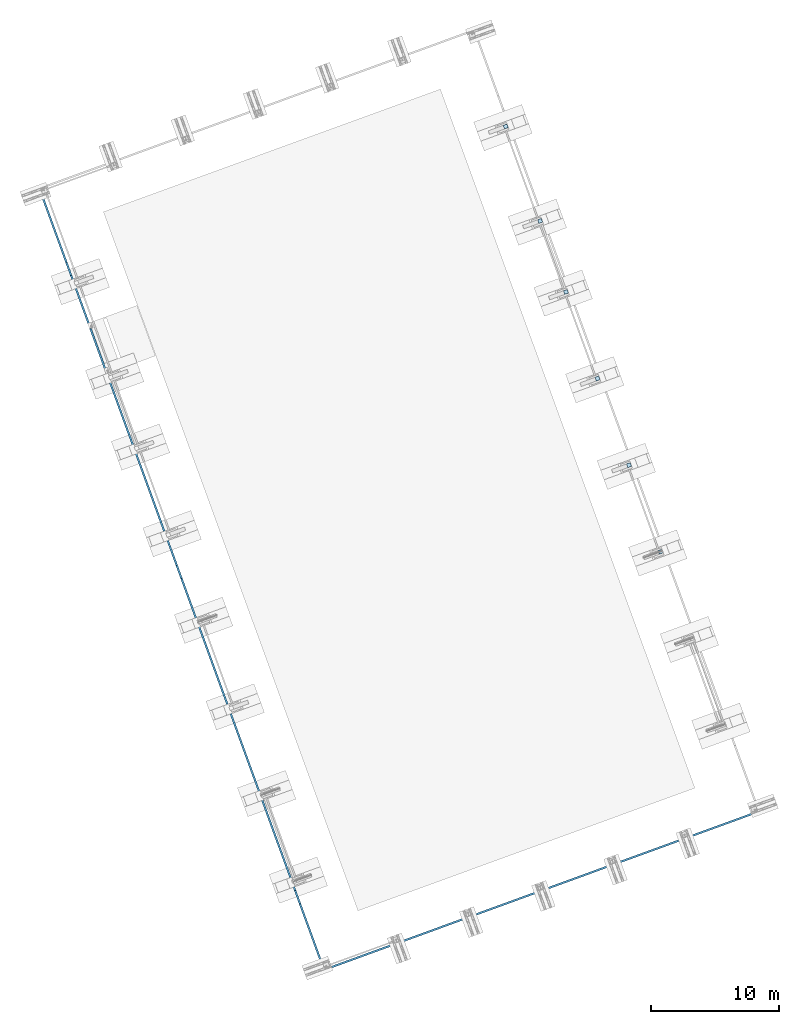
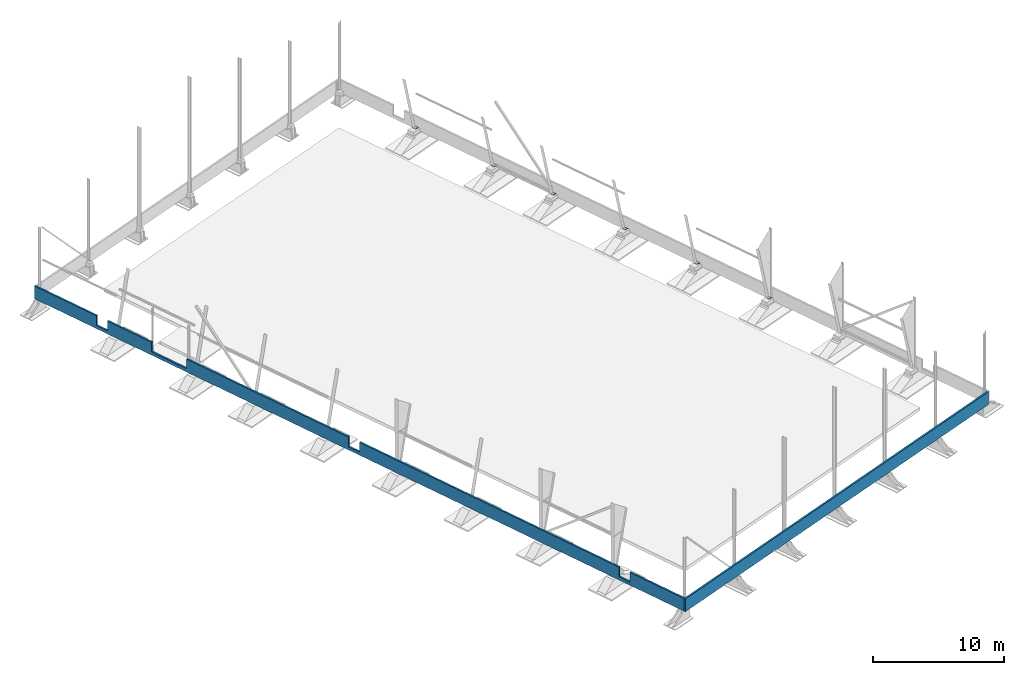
# One storey, part 19 of 20: 6 plates, 2 walls, 4 openings, 8 elements without a shape of their own.
"""IFC4 building model written with IfcOpenShell, lengths in millimetres."""

from ifc_helpers import new_model, si_unit, direction, frame, origin_with_axes, place, context, subcontext, project, spatial, line, indexed_curve, outline, extrude, polygons, material, element, aggregate, save


model = new_model("IFC4")

# Units and contexts
model_context = context("Model", 3, precision=0.2, world=frame((203566.813, 116264.779, 0.0), z_axis=(0.0, 0.0, 1.0), x_axis=(1.0, 0.0, 0.0)), true_north=direction((-0.9396138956, -0.3422363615)))
body_context = subcontext(model_context, "Body", "Model", "MODEL_VIEW")
reference_context = subcontext(model_context, "Reference", "Model", "MODEL_VIEW")
ifc_project = project(units=[si_unit("LENGTHUNIT", "METRE", prefix="MILLI"), si_unit("AREAUNIT", "SQUARE_METRE"), si_unit("VOLUMEUNIT", "CUBIC_METRE"), si_unit("MASSUNIT", "GRAM", prefix="KILO"), si_unit("TIMEUNIT", "SECOND"), si_unit("PLANEANGLEUNIT", "RADIAN"), si_unit("SOLIDANGLEUNIT", "STERADIAN"), si_unit("THERMODYNAMICTEMPERATUREUNIT", "DEGREE_CELSIUS"), si_unit("LUMINOUSINTENSITYUNIT", "LUMEN")], contexts=[model_context])

# Site, building, storey
site_placement = place(None, origin_with_axes())
site = spatial("IfcSite", under=ifc_project, at=site_placement, Name="Nobelprojektet", CompositionType="ELEMENT")
building_placement = place(site_placement, origin_with_axes())
building = spatial("IfcBuilding", under=site, at=building_placement, Name="Hall B", CompositionType="ELEMENT")
storey_placement = place(building_placement, frame((0.0, 0.0, 1000.0), z_axis=(0.0, 0.0, 1.0), x_axis=(1.0, 0.0, 0.0)))
storey = spatial("IfcBuildingStorey", under=building, at=storey_placement, Name="Plan_1", CompositionType="ELEMENT", Elevation=1000.0)

# Assembly, plate
assembly_1_placement = place(storey_placement, frame((176898.02521, 145519.50485, 132189.9974), z_axis=(0.0, 0.0, 1.0), x_axis=(-0.9396136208, -0.3422371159, 0.0)))
assembly_1 = element("IfcElementAssembly", 1, at=assembly_1_placement, inside=storey, Name="BEF. STOMME", PredefinedType="NOTDEFINED")
ifc_material_1 = material(Name="S355J2", Category="STEEL")
plate_1_placement = place(assembly_1_placement, frame((304.32129, 0.0, 0.0), z_axis=(-1.0, 0.0, 0.0), x_axis=(0.0, 0.0, 1.0)))
plate_1 = element("IfcPlate", 2, at=plate_1_placement, material=ifc_material_1, Name="BEF. STOMME", PredefinedType="NOTDEFINED", context=body_context, shape_type="Tessellation", body=[
    polygons([(-10.0, -150.0, 304.32129), (-10.0, 150.0, 304.32129), (-10.0, 150.0, 0.0), (-10.0, -150.0, 0.0), (10.0, 150.0, 304.32129), (10.0, 150.0, 0.0), (10.0, -150.0, 304.32129), (10.0, -150.0, 0.0)], [[[1, 2, 3, 4]], [[2, 5, 6, 3]], [[5, 7, 8, 6]], [[7, 1, 4, 8]], [[6, 8, 4, 3]], [[7, 5, 2, 1]]], closed=True),
])
aggregate(assembly_1, [plate_1])

assembly_2_placement = place(storey_placement, frame((174433.91798, 152284.72292, 132189.9974), z_axis=(0.0, 0.0, 1.0), x_axis=(-0.9396136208, -0.3422371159, 0.0)))
assembly_2 = element("IfcElementAssembly", 3, at=assembly_2_placement, inside=storey, Name="BEF. STOMME", PredefinedType="NOTDEFINED")
plate_2_placement = place(assembly_2_placement, frame((304.32129, 0.0, 0.0), z_axis=(-1.0, 0.0, 0.0), x_axis=(0.0, 0.0, 1.0)))
plate_2 = element("IfcPlate", 4, at=plate_2_placement, material=ifc_material_1, Name="BEF. STOMME", PredefinedType="NOTDEFINED", context=body_context, shape_type="Tessellation", body=[
    polygons([(-10.0, -150.0, 304.32129), (-10.0, 150.0, 304.32129), (-10.0, 150.0, 0.0), (-10.0, -150.0, 0.0), (10.0, 150.0, 304.32129), (10.0, 150.0, 0.0), (10.0, -150.0, 304.32129), (10.0, -150.0, 0.0)], [[[1, 2, 3, 4]], [[2, 5, 6, 3]], [[5, 7, 8, 6]], [[7, 1, 4, 8]], [[6, 8, 4, 3]], [[7, 5, 2, 1]]], closed=True),
])
aggregate(assembly_2, [plate_2])

assembly_3_placement = place(storey_placement, frame((171969.81074, 159049.94099, 132189.9974), z_axis=(0.0, 0.0, 1.0), x_axis=(-0.9396136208, -0.3422371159, 0.0)))
assembly_3 = element("IfcElementAssembly", 5, at=assembly_3_placement, inside=storey, Name="BEF. STOMME", PredefinedType="NOTDEFINED")
plate_3_placement = place(assembly_3_placement, frame((304.32129, 0.0, 0.0), z_axis=(-1.0, 0.0, 0.0), x_axis=(0.0, 0.0, 1.0)))
plate_3 = element("IfcPlate", 6, at=plate_3_placement, material=ifc_material_1, Name="BEF. STOMME", PredefinedType="NOTDEFINED", context=body_context, shape_type="Tessellation", body=[
    polygons([(-10.0, -150.0, 304.32129), (-10.0, 150.0, 304.32129), (-10.0, 150.0, 0.0), (-10.0, -150.0, 0.0), (10.0, 150.0, 304.32129), (10.0, 150.0, 0.0), (10.0, -150.0, 304.32129), (10.0, -150.0, 0.0)], [[[1, 2, 3, 4]], [[2, 5, 6, 3]], [[5, 7, 8, 6]], [[7, 1, 4, 8]], [[6, 8, 4, 3]], [[7, 5, 2, 1]]], closed=True),
])
aggregate(assembly_3, [plate_3])

assembly_4_placement = place(storey_placement, frame((169505.70351, 165815.15906, 132189.9974), z_axis=(0.0, 0.0, 1.0), x_axis=(-0.9396136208, -0.3422371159, 0.0)))
assembly_4 = element("IfcElementAssembly", 7, at=assembly_4_placement, inside=storey, Name="BEF. STOMME", PredefinedType="NOTDEFINED")
plate_4_placement = place(assembly_4_placement, frame((304.32129, 0.0, 0.0), z_axis=(-1.0, 0.0, 0.0), x_axis=(0.0, 0.0, 1.0)))
plate_4 = element("IfcPlate", 8, at=plate_4_placement, material=ifc_material_1, Name="BEF. STOMME", PredefinedType="NOTDEFINED", context=body_context, shape_type="Tessellation", body=[
    polygons([(-10.0, -150.0, 304.32129), (-10.0, 150.0, 304.32129), (-10.0, 150.0, 0.0), (-10.0, -150.0, 0.0), (10.0, 150.0, 304.32129), (10.0, 150.0, 0.0), (10.0, -150.0, 304.32129), (10.0, -150.0, 0.0)], [[[1, 2, 3, 4]], [[2, 5, 6, 3]], [[5, 7, 8, 6]], [[7, 1, 4, 8]], [[6, 8, 4, 3]], [[7, 5, 2, 1]]], closed=True),
])
aggregate(assembly_4, [plate_4])

assembly_5_placement = place(storey_placement, frame((167486.50453, 171358.87942, 132189.9974), z_axis=(0.0, 0.0, 1.0), x_axis=(-0.9396136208, -0.3422371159, 0.0)))
assembly_5 = element("IfcElementAssembly", 9, at=assembly_5_placement, inside=storey, Name="BEF. STOMME", PredefinedType="NOTDEFINED")
plate_5_placement = place(assembly_5_placement, frame((304.32129, 0.0, 0.0), z_axis=(-1.0, 0.0, 0.0), x_axis=(0.0, 0.0, 1.0)))
plate_5 = element("IfcPlate", 10, at=plate_5_placement, material=ifc_material_1, Name="BEF. STOMME", PredefinedType="NOTDEFINED", context=body_context, shape_type="Tessellation", body=[
    polygons([(-10.0, -150.0, 304.32129), (-10.0, 150.0, 304.32129), (-10.0, 150.0, 0.0), (-10.0, -150.0, 0.0), (10.0, 150.0, 304.32129), (10.0, 150.0, 0.0), (10.0, -150.0, 304.32129), (10.0, -150.0, 0.0)], [[[1, 2, 3, 4]], [[2, 5, 6, 3]], [[5, 7, 8, 6]], [[7, 1, 4, 8]], [[6, 8, 4, 3]], [[7, 5, 2, 1]]], closed=True),
])
aggregate(assembly_5, [plate_5])

assembly_6_placement = place(storey_placement, frame((164799.94316, 178734.84634, 132189.9974), z_axis=(0.0, 0.0, 1.0), x_axis=(-0.9396136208, -0.3422371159, 0.0)))
assembly_6 = element("IfcElementAssembly", 11, at=assembly_6_placement, inside=storey, Name="BEF. STOMME", PredefinedType="NOTDEFINED")
plate_6_placement = place(assembly_6_placement, frame((304.32129, 0.0, 0.0), z_axis=(-1.0, 0.0, 0.0), x_axis=(0.0, 0.0, 1.0)))
plate_6 = element("IfcPlate", 12, at=plate_6_placement, material=ifc_material_1, Name="BEF. STOMME", PredefinedType="NOTDEFINED", context=body_context, shape_type="Tessellation", body=[
    polygons([(-10.0, -150.0, 304.32129), (-10.0, 150.0, 304.32129), (-10.0, 150.0, 0.0), (-10.0, -150.0, 0.0), (10.0, 150.0, 304.32129), (10.0, 150.0, 0.0), (10.0, -150.0, 304.32129), (10.0, -150.0, 0.0)], [[[1, 2, 3, 4]], [[2, 5, 6, 3]], [[5, 7, 8, 6]], [[7, 1, 4, 8]], [[6, 8, 4, 3]], [[7, 5, 2, 1]]], closed=True),
])
aggregate(assembly_6, [plate_6])

# Assembly, wall, voiding features
assembly_7_placement = place(storey_placement, frame((128214.1794, 173907.24614, 132475.0), z_axis=(-0.9396136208, -0.3422371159, 0.0), x_axis=(0.3422371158, -0.9396136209, 1.3e-09)))
assembly_7 = element("IfcElementAssembly", 13, at=assembly_7_placement, inside=storey, Name="YV99", PredefinedType="NOTDEFINED")
ifc_material_2 = material(Name="Concrete_Undefined", Category="CONCRETE")
wall_1_placement = place(assembly_7_placement, origin_with_axes())
wall_1 = element("IfcWall", 14, at=wall_1_placement, material=ifc_material_2, Name="BEFINTLIG", PredefinedType="NOTDEFINED", context=body_context, shape_type="Tessellation", body=[
    polygons([(58450.0, 600.0, 75.0), (58450.0, -305.0, 75.0), (58450.0, -305.0, -75.0), (58450.0, 600.0, -75.0), (59550.0, -305.0, 75.0), (59550.0, -305.0, -75.0), (59550.0, 600.0, 75.0), (59550.0, 600.0, -75.0), (32500.0, 600.0, 75.0), (32500.0, 600.0, -75.0), (32500.0, -305.0, -75.0), (32500.0, -305.0, 75.0), (31400.0, -305.0, -75.0), (31400.0, -305.0, 75.0), (31400.0, 600.0, 75.0), (31400.0, 600.0, -75.0), (15230.025, 600.0, -75.0), (15230.025, 600.0, 75.0), (15230.025, -295.0, -75.0), (15230.025, -295.0, 75.0), (11730.025, -295.0, -75.0), (11730.025, -295.0, 75.0), (11730.025, 600.0, 75.0), (11730.025, 600.0, -75.0), (7300.025, 600.0, -75.0), (7300.025, 600.0, 75.0), (7300.025, -305.0, -75.0), (7300.025, -305.0, 75.0), (6200.98656, -305.0, -75.0), (6200.98656, -305.0, 75.0), (6200.98656, 600.0, 75.0), (6200.98656, 600.0, -75.0), (0.0, 600.0, -75.0), (0.0, 600.0, 75.0), (0.0, -600.0, 75.0), (0.0, -600.0, -75.0), (65100.0, -600.0, -75.0), (65100.0, -600.0, 75.0), (65100.0, 600.0, 75.0), (65100.0, 600.0, -75.0)], [[[1, 2, 3, 4]], [[5, 6, 3, 2]], [[7, 8, 6, 5]], [[9, 10, 11, 12]], [[12, 11, 13, 14]], [[15, 14, 13, 16]], [[17, 18, 15, 16]], [[18, 17, 19, 20]], [[20, 19, 21, 22]], [[23, 22, 21, 24]], [[23, 24, 25, 26]], [[26, 25, 27, 28]], [[28, 27, 29, 30]], [[31, 30, 29, 32]], [[33, 34, 31, 32]], [[35, 34, 33, 36]], [[35, 36, 37, 38]], [[39, 38, 37, 40]], [[2, 1, 9, 12, 14, 15, 18, 20, 22, 23, 26, 28, 30, 31, 34, 35, 38, 39, 7, 5]], [[10, 9, 1, 4]], [[40, 37, 36, 33, 32, 29, 27, 25, 24, 21, 19, 17, 16, 13, 11, 10, 4, 3, 6, 8]], [[39, 40, 8, 7]]], closed=True),
])
voiding_feature_1_placement = place(wall_1_placement, frame((13480.025, 174.97731, -225.0), z_axis=(-1.0, 0.0, 0.0), x_axis=(0.0, 0.0, 1.0)))
element("IfcVoidingFeature", 15, at=voiding_feature_1_placement, cuts=wall_1, Name="Öxx", PredefinedType="HOLE", context=reference_context, identifier="Reference", shape_type="SolidModel", body=[
    extrude(outline(indexed_curve([(-1750.0, -469.97731), (1750.0, -469.97731), (1750.0, 469.97731), (-1750.0, 469.97731)], segments=[line(1, 2, 3, 4, 1)])), frame((0.0, 0.0, 0.0), z_axis=(-1.0, 0.0, 0.0), x_axis=(0.0, 0.0, 1.0)), (0.0, 0.0, -1.0), 450.0),
])
voiding_feature_2_placement = place(wall_1_placement, frame((6750.50578, 169.97731, -225.0), z_axis=(-1.0, 0.0, 0.0), x_axis=(0.0, 0.0, 1.0)))
element("IfcVoidingFeature", 16, at=voiding_feature_2_placement, cuts=wall_1, Name="Öxx", PredefinedType="HOLE", context=reference_context, identifier="Reference", shape_type="SolidModel", body=[
    extrude(outline(indexed_curve([(-549.51922, -474.97731), (549.51922, -474.97731), (549.51922, 474.97731), (-549.51922, 474.97731)], segments=[line(1, 2, 3, 4, 1)])), frame((0.0, 0.0, 0.0), z_axis=(-1.0, 0.0, 0.0), x_axis=(0.0, 0.0, 1.0)), (0.0, 0.0, -1.0), 450.0),
])
voiding_feature_3_placement = place(wall_1_placement, frame((31950.0, 169.97731, -224.99999), z_axis=(-1.0, 0.0, 0.0), x_axis=(0.0, 0.0, 1.0)))
element("IfcVoidingFeature", 17, at=voiding_feature_3_placement, cuts=wall_1, Name="Öxx", PredefinedType="HOLE", context=reference_context, identifier="Reference", shape_type="SolidModel", body=[
    extrude(outline(indexed_curve([(-550.0, -474.97731), (550.0, -474.97731), (550.0, 474.97731), (-550.0, 474.97731)], segments=[line(1, 2, 3, 4, 1)])), frame((0.0, 0.0, 0.0), z_axis=(-1.0, 0.0, 0.0), x_axis=(0.0, 0.0, 1.0)), (0.0, 0.0, -1.0), 450.0),
])
voiding_feature_4_placement = place(wall_1_placement, frame((59000.0, 169.97731, -224.99998), z_axis=(-1.0, 0.0, 0.0), x_axis=(0.0, 0.0, 1.0)))
element("IfcVoidingFeature", 18, at=voiding_feature_4_placement, cuts=wall_1, Name="Öxx", PredefinedType="HOLE", context=reference_context, identifier="Reference", shape_type="SolidModel", body=[
    extrude(outline(indexed_curve([(-550.0, -474.97731), (550.0, -474.97731), (550.0, 474.97731), (-550.0, 474.97731)], segments=[line(1, 2, 3, 4, 1)])), frame((0.0, 0.0, 0.0), z_axis=(-1.0, 0.0, 0.0), x_axis=(0.0, 0.0, 1.0)), (0.0, 0.0, -1.0), 450.0),
])
aggregate(assembly_7, [wall_1])

# Assembly, wall
assembly_8_placement = place(storey_placement, frame((150397.68125, 112783.20426, 132475.0), z_axis=(0.3422371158, -0.9396136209, 1.3e-09), x_axis=(0.9396136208, 0.3422371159, 0.0)))
assembly_8 = element("IfcElementAssembly", 19, at=assembly_8_placement, inside=storey, Name="YV99", PredefinedType="NOTDEFINED")
wall_2_placement = place(assembly_8_placement, origin_with_axes())
wall_2 = element("IfcWall", 20, at=wall_2_placement, material=ifc_material_2, Name="BEFINTLIG", PredefinedType="NOTDEFINED", context=body_context, shape_type="Tessellation", body=[
    polygons([(0.0, -600.0, -75.0), (0.0, 600.0, -75.0), (36150.0, 600.0, -75.0), (36150.0, -600.0, -75.0), (0.0, 600.0, 75.0), (36150.0, 600.0, 75.0), (0.0, -600.0, 75.0), (36150.0, -600.0, 75.0)], [[[1, 2, 3, 4]], [[2, 5, 6, 3]], [[5, 7, 8, 6]], [[7, 1, 4, 8]], [[6, 8, 4, 3]], [[7, 5, 2, 1]]], closed=True),
])
aggregate(assembly_8, [wall_2])

save(model, "model.ifc")
